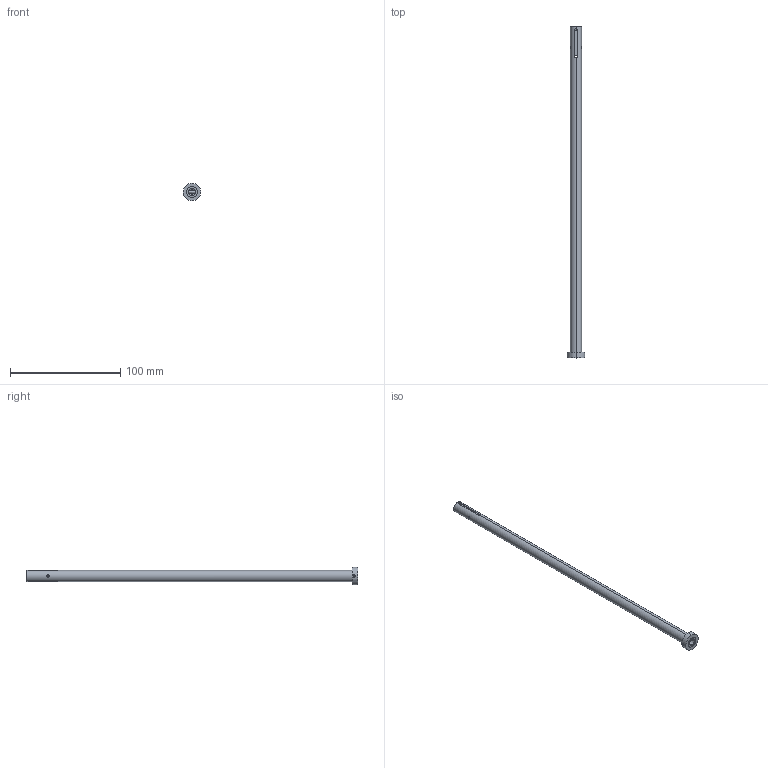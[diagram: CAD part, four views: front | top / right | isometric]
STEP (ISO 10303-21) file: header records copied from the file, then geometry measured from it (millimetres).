
FILE_DESCRIPTION (( 'STEP AP203' ), '1' );
FILE_NAME ('SGDE-1005x300.STEP', '2017-01-10T15:47:42', ( 'Balzi' ), ( '' ), 'SwSTEP 2.0', 'SolidWorks 2016', '' );
FILE_SCHEMA (( 'CONFIG_CONTROL_DESIGN' ));
Length unit declared in the file: millimetre
Products named in the file (1): SGDE-1005x300
Bounding box: 16 x 300.5 x 16 mm (x, y, z)
Volume: 15833.5 mm3; surface area: 16337.7 mm2
Topology: 1 solids, 1 shells, 84 faces, 234 edges, 154 vertices
Faces by surface type: cylinder 48, plane 32, cone 4
Entity records: 3309 total; most frequent: CARTESIAN_POINT 1073, ORIENTED_EDGE 468, DIRECTION 422, EDGE_CURVE 234, AXIS2_PLACEMENT_3D 155, VERTEX_POINT 154, VECTOR 112, LINE 112
